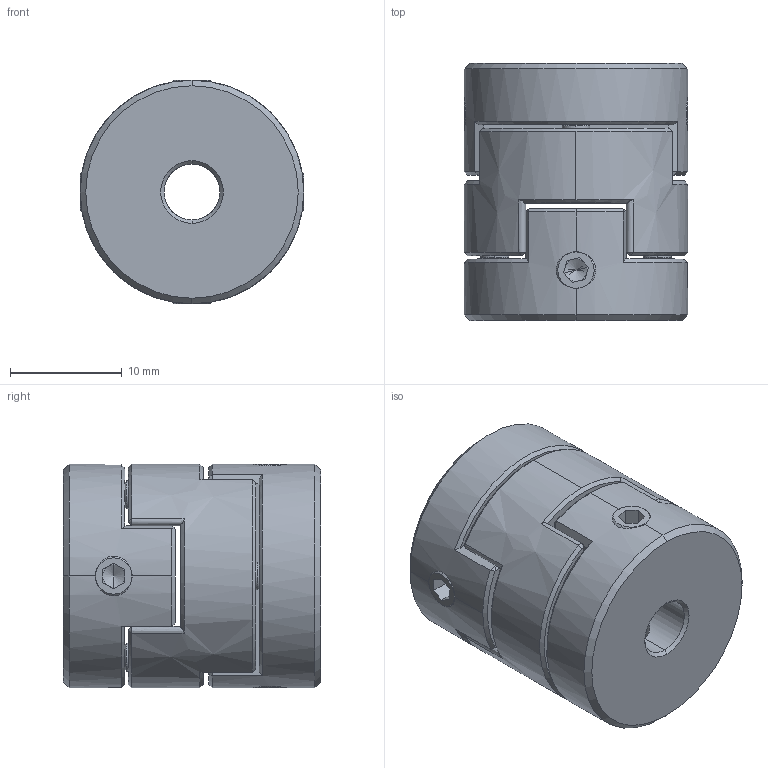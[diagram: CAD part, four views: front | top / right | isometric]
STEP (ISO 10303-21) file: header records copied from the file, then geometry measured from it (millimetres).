
FILE_DESCRIPTION (( 'STEP AP203' ), '1' );
FILE_NAME ('LZ-D-D20L23-5-5.STEP', '2021-10-30T01:42:05', ( '' ), ( '' ), 'SwSTEP 2.0', 'SolidWorks 2018', '' );
FILE_SCHEMA (( 'CONFIG_CONTROL_DESIGN' ));
Length unit declared in the file: millimetre
Products named in the file (1): LZ-D-D20L23-5-5
Bounding box: 20 x 23 x 20 mm (x, y, z)
Volume: 6329.9 mm3; surface area: 4114.2 mm2
Topology: 3 solids, 3 shells, 230 faces, 586 edges, 364 vertices
Faces by surface type: plane 116, cone 54, cylinder 34, bspline 26
Entity records: 9725 total; most frequent: CARTESIAN_POINT 4443, ORIENTED_EDGE 1156, DIRECTION 978, EDGE_CURVE 578, VERTEX_POINT 364, AXIS2_PLACEMENT_3D 357, LINE 264, VECTOR 264
